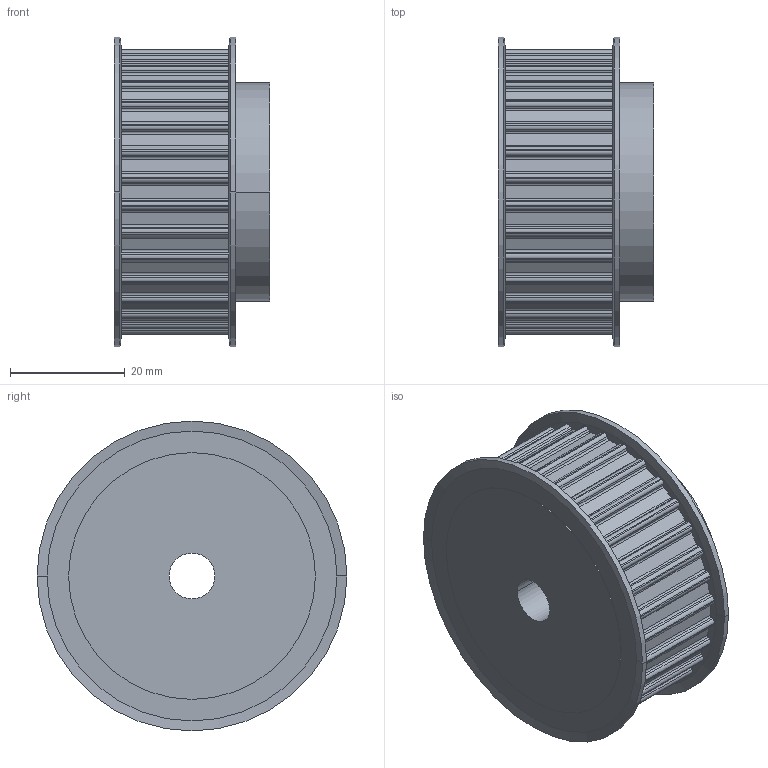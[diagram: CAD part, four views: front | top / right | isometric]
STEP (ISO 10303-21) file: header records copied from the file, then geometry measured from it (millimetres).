
FILE_DESCRIPTION( ( '' ), '1' );
FILE_NAME( 'C:/Users/Stangenbergd/Documents/CAD_Step/1/16633200.stp', '2021-10-19T09:36:41', ( '' ), ( '' ), ' ', ' ', ' ' );
FILE_SCHEMA( ( 'CONFIG_CONTROL_DESIGN' ) );
Length unit declared in the file: millimetre
Products named in the file (1): 1
Bounding box: 27.1 x 54 x 54 mm (x, y, z)
Volume: 44653.1 mm3; surface area: 10680.2 mm2
Topology: 1 solids, 1 shells, 283 faces, 820 edges, 544 vertices
Faces by surface type: cylinder 172, plane 103, cone 8
Entity records: 9510 total; most frequent: DIRECTION 1740, CARTESIAN_POINT 1648, ORIENTED_EDGE 1640, EDGE_CURVE 820, AXIS2_PLACEMENT_3D 636, VERTEX_POINT 544, LINE 468, VECTOR 468
